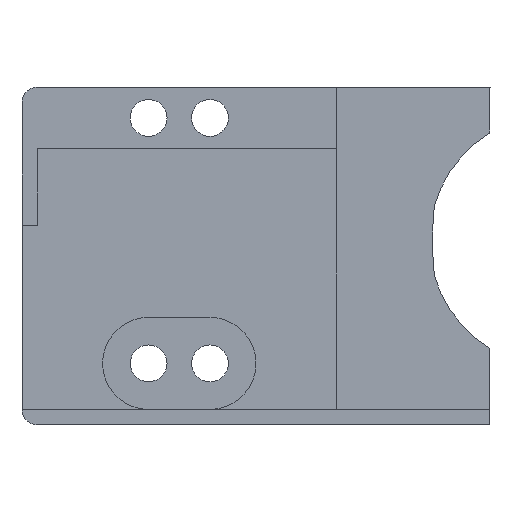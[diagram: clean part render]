
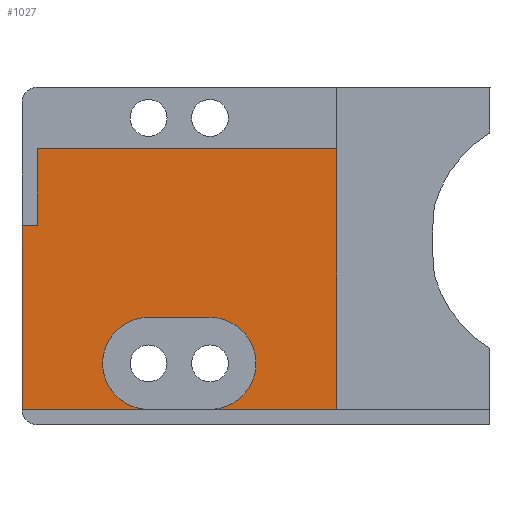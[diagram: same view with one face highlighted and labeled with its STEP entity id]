
A CAD part, left-side view. The second image highlights one B-rep face of the part: STEP entity #1027.
In plain terms, the highlighted planar face has unit normal (-1, 0, 0) as drawn and (0, 0, -1) by its records, which use the part's own axes.
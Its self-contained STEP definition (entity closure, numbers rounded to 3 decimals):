
#1 = LINE ( 'NONE', #734, #8 ) ;
#8 = VECTOR ( 'NONE', #182, 1000. ) ;
#41 = EDGE_LOOP ( 'NONE', ( #116, #225, #1280, #185, #806, #1073, #1337, #551, #1330, #243 ) ) ;
#43 = DIRECTION ( 'NONE',  ( -1., 0., 0. ) ) ;
#63 = EDGE_CURVE ( 'NONE', #153, #1011, #768, .T. ) ;
#84 = EDGE_CURVE ( 'NONE', #423, #1625, #1341, .T. ) ;
#116 = ORIENTED_EDGE ( 'NONE', *, *, #880, .F. ) ;
#130 = CARTESIAN_POINT ( 'NONE',  ( 21., 45.27, 26.5 ) ) ;
#153 = VERTEX_POINT ( 'NONE', #259 ) ;
#182 = DIRECTION ( 'NONE',  ( 1., 0., 0. ) ) ;
#184 = LINE ( 'NONE', #1678, #1114 ) ;
#185 = ORIENTED_EDGE ( 'NONE', *, *, #222, .T. ) ;
#199 = LINE ( 'NONE', #557, #747 ) ;
#222 = EDGE_CURVE ( 'NONE', #290, #1239, #1352, .T. ) ;
#225 = ORIENTED_EDGE ( 'NONE', *, *, #84, .T. ) ;
#234 = CARTESIAN_POINT ( 'NONE',  ( 18., 36., 26.5 ) ) ;
#243 = ORIENTED_EDGE ( 'NONE', *, *, #63, .T. ) ;
#245 = CARTESIAN_POINT ( 'NONE',  ( 21., 23.75, 26.5 ) ) ;
#249 = CARTESIAN_POINT ( 'NONE',  ( 15., 36., 26.5 ) ) ;
#259 = CARTESIAN_POINT ( 'NONE',  ( 4., 23.75, 26.5 ) ) ;
#290 = VERTEX_POINT ( 'NONE', #1226 ) ;
#350 = DIRECTION ( 'NONE',  ( -1., 0., 0. ) ) ;
#362 = DIRECTION ( 'NONE',  ( 0., 1., 0. ) ) ;
#365 = CARTESIAN_POINT ( 'NONE',  ( 17., 43.25, 26.5 ) ) ;
#423 = VERTEX_POINT ( 'NONE', #1113 ) ;
#443 = VERTEX_POINT ( 'NONE', #666 ) ;
#493 = DIRECTION ( 'NONE',  ( 0., 0., 1. ) ) ;
#501 = DIRECTION ( 'NONE',  ( 0., 1., 0. ) ) ;
#551 = ORIENTED_EDGE ( 'NONE', *, *, #676, .T. ) ;
#557 = CARTESIAN_POINT ( 'NONE',  ( 15., 32., 26.5 ) ) ;
#622 = LINE ( 'NONE', #1572, #1037 ) ;
#627 = AXIS2_PLACEMENT_3D ( 'NONE', #234, #1328, #1457 ) ;
#666 = CARTESIAN_POINT ( 'NONE',  ( 15., 32., 26.5 ) ) ;
#676 = EDGE_CURVE ( 'NONE', #1531, #1378, #184, .T. ) ;
#734 = CARTESIAN_POINT ( 'NONE',  ( 4., 44.25, 26.5 ) ) ;
#740 = FACE_OUTER_BOUND ( 'NONE', #41, .T. ) ;
#747 = VECTOR ( 'NONE', #1112, 1000. ) ;
#768 = LINE ( 'NONE', #1704, #1232 ) ;
#788 = DIRECTION ( 'NONE',  ( -1., 0., 0. ) ) ;
#806 = ORIENTED_EDGE ( 'NONE', *, *, #1197, .T. ) ;
#880 = EDGE_CURVE ( 'NONE', #423, #1011, #1434, .T. ) ;
#893 = AXIS2_PLACEMENT_3D ( 'NONE', #1448, #493, #1567 ) ;
#927 = VERTEX_POINT ( 'NONE', #249 ) ;
#984 = CARTESIAN_POINT ( 'NONE',  ( 18., 36., 26.5 ) ) ;
#987 = EDGE_CURVE ( 'NONE', #1625, #290, #1, .T. ) ;
#996 = CARTESIAN_POINT ( 'NONE',  ( 21., 32., 26.5 ) ) ;
#1011 = VERTEX_POINT ( 'NONE', #1585 ) ;
#1022 = PLANE ( 'NONE',  #1059 ) ;
#1027 = ADVANCED_FACE ( 'NONE', ( #740 ), #1022, .T. ) ;
#1037 = VECTOR ( 'NONE', #350, 1000. ) ;
#1058 = DIRECTION ( 'NONE',  ( 0., -1., 0. ) ) ;
#1059 = AXIS2_PLACEMENT_3D ( 'NONE', #984, #1266, #43 ) ;
#1073 = ORIENTED_EDGE ( 'NONE', *, *, #1164, .T. ) ;
#1112 = DIRECTION ( 'NONE',  ( 0., -1., 0. ) ) ;
#1113 = CARTESIAN_POINT ( 'NONE',  ( 9., 43.25, 26.5 ) ) ;
#1114 = VECTOR ( 'NONE', #1288, 1000. ) ;
#1164 = EDGE_CURVE ( 'NONE', #927, #443, #199, .T. ) ;
#1187 = CARTESIAN_POINT ( 'NONE',  ( 21., 36., 26.5 ) ) ;
#1191 = EDGE_CURVE ( 'NONE', #443, #1531, #1694, .T. ) ;
#1197 = EDGE_CURVE ( 'NONE', #1239, #927, #1206, .T. ) ;
#1206 = CIRCLE ( 'NONE', #627, 3. ) ;
#1226 = CARTESIAN_POINT ( 'NONE',  ( 21., 44.25, 26.5 ) ) ;
#1232 = VECTOR ( 'NONE', #501, 1000. ) ;
#1239 = VERTEX_POINT ( 'NONE', #1187 ) ;
#1266 = DIRECTION ( 'NONE',  ( 0., 0., -1. ) ) ;
#1280 = ORIENTED_EDGE ( 'NONE', *, *, #987, .T. ) ;
#1287 = VECTOR ( 'NONE', #362, 1000. ) ;
#1288 = DIRECTION ( 'NONE',  ( 0., -1., 0. ) ) ;
#1328 = DIRECTION ( 'NONE',  ( 0., 0., 1. ) ) ;
#1330 = ORIENTED_EDGE ( 'NONE', *, *, #1644, .T. ) ;
#1337 = ORIENTED_EDGE ( 'NONE', *, *, #1191, .T. ) ;
#1341 = LINE ( 'NONE', #1580, #1287 ) ;
#1352 = LINE ( 'NONE', #130, #1583 ) ;
#1378 = VERTEX_POINT ( 'NONE', #245 ) ;
#1434 = LINE ( 'NONE', #365, #1559 ) ;
#1448 = CARTESIAN_POINT ( 'NONE',  ( 18., 32., 26.5 ) ) ;
#1457 = DIRECTION ( 'NONE',  ( -1., 0., 0. ) ) ;
#1497 = CARTESIAN_POINT ( 'NONE',  ( 9., 44.25, 26.5 ) ) ;
#1531 = VERTEX_POINT ( 'NONE', #996 ) ;
#1559 = VECTOR ( 'NONE', #788, 1000. ) ;
#1567 = DIRECTION ( 'NONE',  ( -1., 0., 0. ) ) ;
#1572 = CARTESIAN_POINT ( 'NONE',  ( 20., 23.75, 26.5 ) ) ;
#1580 = CARTESIAN_POINT ( 'NONE',  ( 9., 42.25, 26.5 ) ) ;
#1583 = VECTOR ( 'NONE', #1058, 1000. ) ;
#1585 = CARTESIAN_POINT ( 'NONE',  ( 4., 43.25, 26.5 ) ) ;
#1625 = VERTEX_POINT ( 'NONE', #1497 ) ;
#1644 = EDGE_CURVE ( 'NONE', #1378, #153, #622, .T. ) ;
#1678 = CARTESIAN_POINT ( 'NONE',  ( 21., 45.27, 26.5 ) ) ;
#1694 = CIRCLE ( 'NONE', #893, 3. ) ;
#1704 = CARTESIAN_POINT ( 'NONE',  ( 4., 23.75, 26.5 ) ) ;
